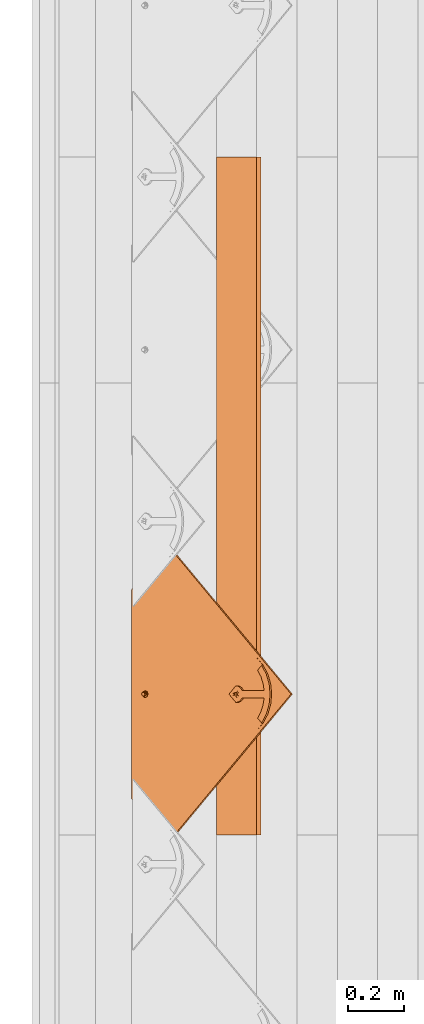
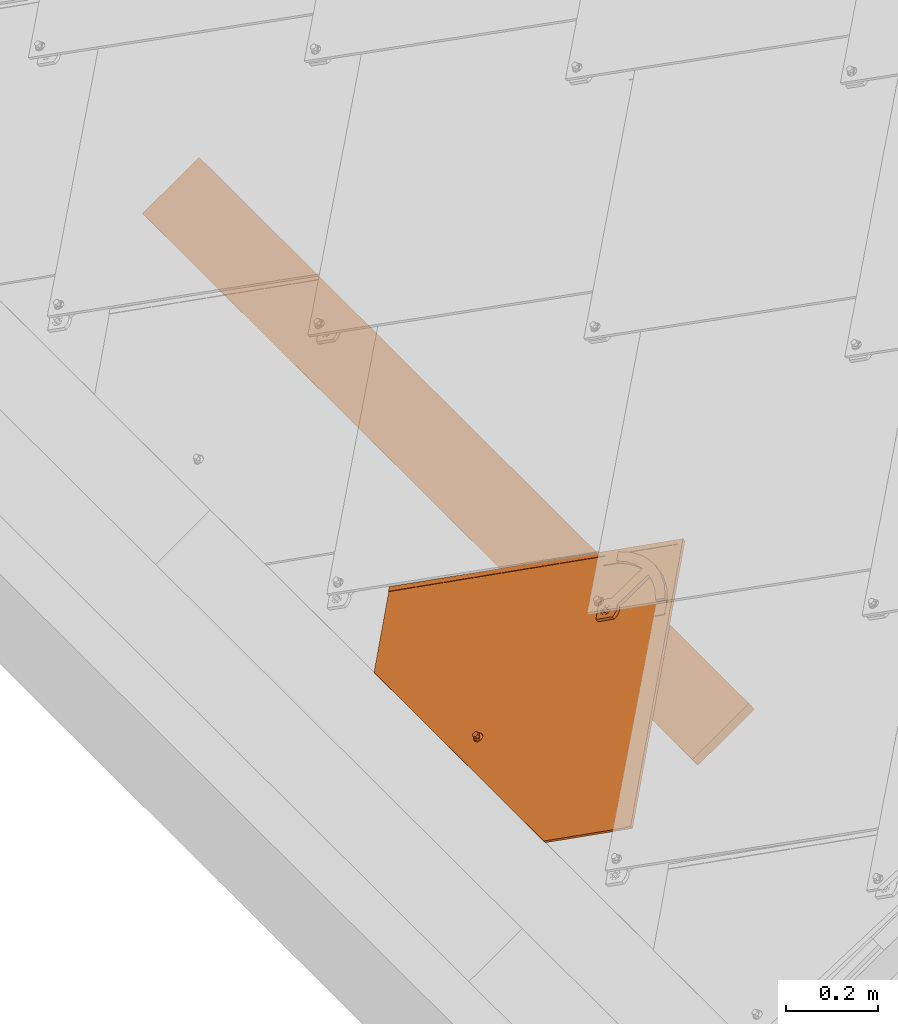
# One storey, part 24 of 133: 2 proxies, 1 element without a shape of its own.
"""IFC2X3 building model written with IfcOpenShell, lengths in millimetres."""

from ifc_helpers import new_model, entity, si_unit, converted_unit, derived_unit, direction, frame, frame_2d, origin, place, context, subcontext, project, spatial, rectangle, extrude, faceted_brep, source, transform, mapped, material, material_list, type_object, type_shapes, element, aggregate, save


model = new_model("IFC2X3")

# Units and contexts
model_context = context("Model", 3, precision=0.01, world=origin(), true_north=direction((6.12303176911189e-17, 1.0)))
body_context = subcontext(model_context, "Body", "Model", "MODEL_VIEW")
ifc_project = project(units=[si_unit("LENGTHUNIT", "METRE", prefix="MILLI"), si_unit("AREAUNIT", "SQUARE_METRE"), si_unit("VOLUMEUNIT", "CUBIC_METRE"), converted_unit("PLANEANGLEUNIT", "DEGREE", entity("IfcRatioMeasure", 0.0174532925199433), si_unit("PLANEANGLEUNIT", "RADIAN"), dimensions=[0, 0, 0, 0, 0, 0, 0]), si_unit("MASSUNIT", "GRAM", prefix="KILO"), derived_unit("MASSDENSITYUNIT", [(si_unit("MASSUNIT", "GRAM", prefix="KILO"), 1), (si_unit("LENGTHUNIT", "METRE"), -3)]), si_unit("TIMEUNIT", "SECOND"), si_unit("FREQUENCYUNIT", "HERTZ"), si_unit("THERMODYNAMICTEMPERATUREUNIT", "DEGREE_CELSIUS"), derived_unit("THERMALTRANSMITTANCEUNIT", [(si_unit("MASSUNIT", "GRAM", prefix="KILO"), 1), (si_unit("THERMODYNAMICTEMPERATUREUNIT", "KELVIN"), -1), (si_unit("TIMEUNIT", "SECOND"), -3)]), derived_unit("VOLUMETRICFLOWRATEUNIT", [(si_unit("LENGTHUNIT", "METRE"), 3), (si_unit("TIMEUNIT", "SECOND"), -1)]), si_unit("ELECTRICCURRENTUNIT", "AMPERE"), si_unit("ELECTRICVOLTAGEUNIT", "VOLT"), si_unit("POWERUNIT", "WATT"), si_unit("FORCEUNIT", "NEWTON", prefix="KILO"), si_unit("ILLUMINANCEUNIT", "LUX"), si_unit("LUMINOUSFLUXUNIT", "LUMEN"), si_unit("LUMINOUSINTENSITYUNIT", "CANDELA"), derived_unit("USERDEFINED", [(si_unit("MASSUNIT", "GRAM", prefix="KILO"), -1), (si_unit("LENGTHUNIT", "METRE"), -2), (si_unit("TIMEUNIT", "SECOND"), 3), (si_unit("LUMINOUSFLUXUNIT", "LUMEN"), 1)]), derived_unit("LINEARVELOCITYUNIT", [(si_unit("LENGTHUNIT", "METRE"), 1), (si_unit("TIMEUNIT", "SECOND"), -1)]), si_unit("PRESSUREUNIT", "PASCAL"), derived_unit("USERDEFINED", [(si_unit("LENGTHUNIT", "METRE"), -2), (si_unit("MASSUNIT", "GRAM", prefix="KILO"), 1), (si_unit("TIMEUNIT", "SECOND"), -2)])], contexts=[model_context])

# Site, building, storey
site_placement = place(None, origin())
site = spatial("IfcSite", under=ifc_project, at=site_placement, Name="Default", CompositionType="ELEMENT")
building_placement = place(site_placement, origin())
building = spatial("IfcBuilding", under=site, at=building_placement, CompositionType="ELEMENT")
storey_placement = place(building_placement, origin())
storey = spatial("IfcBuildingStorey", under=building, at=storey_placement, Name="Level 1", CompositionType="ELEMENT", Elevation=0.0)

# Assembly, proxy
assembly_placement = place(storey_placement, origin())
assembly = element("IfcElementAssembly", 1, at=assembly_placement, inside=storey, Name="Structural Framing Assembly:Roof Construction Assembly", ObjectType="Structural Framing Assembly:Roof Construction Assembly", AssemblyPlace="NOTDEFINED", PredefinedType="USERDEFINED")
ifc_material_1 = material(Name="Wood - Generic - Wood For Showcase")
building_element_proxy_type_1 = type_object("IfcBuildingElementProxyType", Name="Structural Framing 15", PredefinedType="NOTDEFINED", material=ifc_material_1)
shared_shape_1 = source(origin(), body_context, "Body", "SweptSolid", [
    extrude(rectangle(XDim=24.9999999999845, YDim=174.344679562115, at=frame_2d((-1.77635683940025e-13, -4.54747350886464e-13), x_axis=(0.0, 1.0))), frame((1128.20180147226, 1525.55080214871, 2760.23940055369), z_axis=(0.0, 1.0, 0.0), x_axis=(-0.819152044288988, 0.0, -0.573576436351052)), (0.0, 0.0, 1.0), 2400.0),
])
type_shapes(building_element_proxy_type_1, [shared_shape_1])
proxy_1_placement = place(assembly_placement, frame((-3141.92561483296, -4870.0, -2200.0)))
proxy_1 = element("IfcBuildingElementProxy", 2, at=proxy_1_placement, type_object=building_element_proxy_type_1, material=ifc_material_1, Name="Structural Framing 127:Structural Framing 15", ObjectType="Structural Framing 127:Structural Framing 15", context=body_context, shape_type="MappedRepresentation", body=[
    mapped(shared_shape_1, transform((0.0, 0.0, 0.0), scale=1.0)),
])
aggregate(assembly, [proxy_1])

# Proxy
ifc_material_2 = material(Name="Rubber - Sunstyle - Black")
ifc_material_3 = material(Name="Glass - Sunstyle - Tainted Black")
ifc_material_list_1 = material_list([ifc_material_2, ifc_material_3])
ifc_material_list_2 = material_list([ifc_material_2, ifc_material_3])
building_element_proxy_type_2 = type_object("IfcBuildingElementProxyType", Name="Shingle Bottom - Black", PredefinedType="NOTDEFINED", material=ifc_material_list_2)
shared_shape_2 = source(origin(), body_context, "Body", "Brep", [
    faceted_brep([(0.0, -1.79273515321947, -4.01619789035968), (-5.7742028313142, -5.12600528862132, -3.96037390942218), (-5.77420283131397, -4.75769619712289, 18.0314954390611), (0.0, -1.42442606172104, 17.9756714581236), (-5.77420283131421, -11.792545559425, -3.84872594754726), (-5.77420283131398, -11.4242364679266, 18.143143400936), (0.0, -15.1258156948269, -3.79290196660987), (0.0, -14.7575066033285, 18.1989673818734), (5.77420283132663, -11.7925455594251, -3.84872594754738), (5.77420283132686, -11.4242364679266, 18.1431434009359), (5.77420283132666, -5.12600528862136, -3.96037390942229), (5.77420283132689, -4.75769619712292, 18.031495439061), (-8.60370416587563, -16.6934641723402, 18.2313898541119), (0.0, -20.2567354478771, 18.2910657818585), (-12.1674751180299, -8.09096633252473, 18.0873194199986), (-8.60370416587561, 0.511531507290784, 17.9432489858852), (0.0, 4.07480278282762, 17.8835730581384), (8.60370416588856, 0.511531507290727, 17.9432489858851), (12.1674751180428, -8.09096633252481, 18.0873194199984), (8.60370416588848, -16.6934641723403, 18.2313898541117), (-11.4302228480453, -6.71737066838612, 20.4858706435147), (-9.77051349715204, -8.02009729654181, 22.3189355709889), (0.0, -0.706876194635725, 22.9603444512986), (0.0, 0.533621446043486, 22.3799978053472), (0.0, 2.69117229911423, 21.3706227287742), (-6.32324569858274, -4.35709193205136, 23.021476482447), (-6.32324569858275, -11.6575234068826, 23.1437405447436), (0.0, -18.7571148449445, 21.7298281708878), (0.0, -15.3077391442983, 23.2048725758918), (10.9851748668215, -11.808022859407, 20.3827540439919), (10.123850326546, -8.02413622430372, 22.0777687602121), (6.32324569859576, -4.3570919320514, 23.0214764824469), (6.32324569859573, -11.6575234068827, 23.1437405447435), (-6.32324569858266, -11.5234949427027, 31.146628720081), (0.0, -15.1737106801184, 31.2077607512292), (0.0, -7.8732792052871, 31.0854966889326), (-6.32324569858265, -4.22306346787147, 31.0243646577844), (6.32324569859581, -11.5234949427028, 31.1466287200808), (6.32324569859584, -4.22306346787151, 31.0243646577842), (0.0, -0.57284773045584, 30.963232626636), (0.0, -8.45927542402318, -3.90454992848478)], [[[0, 1, 2, 3]], [[1, 4, 5, 2]], [[4, 6, 7, 5]], [[6, 8, 9, 7]], [[8, 10, 11, 9]], [[10, 0, 3, 11]], [[12, 7, 13]], [[7, 12, 5]], [[14, 5, 12]], [[5, 14, 2]], [[15, 2, 14]], [[3, 2, 15]], [[15, 16, 3]], [[16, 17, 3]], [[11, 3, 17]], [[11, 17, 18]], [[9, 11, 18]], [[18, 19, 9]], [[7, 9, 19]], [[19, 13, 7]], [[15, 20, 16]], [[21, 22, 23, 24]], [[22, 21, 25]], [[20, 14, 12]], [[15, 14, 20]], [[25, 21, 26]], [[20, 24, 16]], [[12, 13, 27]], [[12, 27, 20]], [[21, 28, 26]], [[21, 27, 28]], [[20, 21, 24]], [[20, 27, 21]], [[19, 29, 13]], [[30, 23, 31]], [[30, 28, 27]], [[24, 23, 30]], [[29, 27, 13]], [[19, 18, 29]], [[29, 30, 27]], [[29, 17, 24]], [[24, 17, 16]], [[31, 32, 30]], [[23, 22, 31]], [[28, 30, 32]], [[29, 24, 30]], [[29, 18, 17]], [[33, 34, 35]], [[35, 36, 33]], [[34, 37, 35]], [[38, 35, 37]], [[35, 38, 39]], [[35, 39, 36]], [[40, 6, 4]], [[4, 1, 40]], [[1, 0, 40]], [[40, 8, 6]], [[0, 10, 40]], [[8, 40, 10]], [[22, 25, 36, 39]], [[25, 26, 33, 36]], [[26, 28, 34, 33]], [[28, 32, 37, 34]], [[32, 31, 38, 37]], [[31, 22, 39, 38]]]),
    faceted_brep([(0.0, 372.824876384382, 20.3195200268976), (0.0, 377.324245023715, 20.2441667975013), (-8.60370416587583, 376.388147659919, 20.2598440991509), (8.60370416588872, 376.388147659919, 20.2598440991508), (6.64022859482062, 381.157445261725, 20.1799702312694), (12.1674751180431, 384.990645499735, 20.1157736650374), (6.64022859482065, 388.823845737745, 20.0515770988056), (8.6037041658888, 393.59314333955, 19.9717032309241), (0.0, 392.657045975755, 19.9873805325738), (0.0, 397.156414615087, 19.9120273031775), (-8.60370416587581, 393.59314333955, 19.9717032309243), (-6.64022859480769, 388.823845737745, 20.0515770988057), (-12.1674751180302, 384.990645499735, 20.1157736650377), (-6.6402285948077, 381.157445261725, 20.1799702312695), (-6.6402282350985, 388.555922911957, 4.05382046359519), (0.0, 392.389122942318, 3.98962390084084), (-6.64022823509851, 380.889522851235, 4.18221358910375), (0.0, 377.056322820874, 4.24641015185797), (6.64022823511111, 380.889522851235, 4.18221358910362), (6.64022823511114, 388.555922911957, 4.05382046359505), (-8.603704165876, 376.12022504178, 4.26208746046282), (0.0, 372.556953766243, 4.32176338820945), (-12.1674751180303, 384.722722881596, 4.11801702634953), (-8.60370416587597, 393.325220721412, 3.97394659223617), (0.0, 396.888491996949, 3.91427066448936), (8.60370416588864, 393.325220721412, 3.97394659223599), (12.1674751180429, 384.722722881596, 4.11801702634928), (8.60370416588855, 376.12022504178, 4.26208746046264)], [[[0, 1, 2]], [[1, 0, 3]], [[3, 4, 1]], [[4, 3, 5]], [[6, 4, 5]], [[5, 7, 6]], [[7, 8, 6]], [[8, 7, 9]], [[8, 9, 10]], [[10, 11, 8]], [[12, 11, 10]], [[2, 13, 12]], [[12, 13, 11]], [[13, 2, 1]], [[8, 11, 14, 15]], [[11, 13, 16, 14]], [[13, 1, 17, 16]], [[1, 4, 18, 17]], [[4, 6, 19, 18]], [[6, 8, 15, 19]], [[20, 17, 21]], [[17, 20, 16]], [[22, 16, 20]], [[14, 16, 22]], [[23, 14, 22]], [[15, 14, 23]], [[23, 24, 15]], [[24, 25, 15]], [[19, 15, 25]], [[19, 25, 26]], [[26, 18, 19]], [[26, 27, 18]], [[17, 18, 27]], [[27, 21, 17]], [[24, 23, 10, 9]], [[10, 23, 22, 12]], [[20, 21, 0, 2]], [[20, 2, 12, 22]], [[21, 27, 3, 0]], [[3, 27, 26, 5]], [[25, 24, 9, 7]], [[25, 7, 5, 26]]]),
    faceted_brep([(518.247351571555, 79.9143812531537, 14.965257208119), (526.732038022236, 88.3990677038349, 14.8231598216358), (526.732038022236, 88.4241854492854, 16.3229495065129), (518.247351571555, 79.9394989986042, 16.4650468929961), (0.000322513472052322, 598.016093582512, 6.28834266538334), (-518.246706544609, 79.9143812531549, 14.9652572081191), (-526.73139299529, 88.3990677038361, 14.8231598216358), (0.000322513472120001, 614.983087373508, 6.00418773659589), (0.000322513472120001, 615.008205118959, 7.50397742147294), (-526.731392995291, 88.4241854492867, 16.3229495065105), (-518.246706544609, 79.9394989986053, 16.465046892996), (0.000322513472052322, 598.041211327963, 7.78813235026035)], [[[0, 1, 2, 3]], [[1, 0, 4, 5, 6, 7]], [[2, 1, 7, 8]], [[3, 2, 8, 9, 10, 11]], [[0, 3, 11, 4]], [[5, 10, 9, 6]], [[8, 7, 6, 9]], [[4, 11, 10, 5]]]),
    faceted_brep([(0.00032251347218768, 614.983087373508, 6.00418773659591), (-2.87802047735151, 396.187349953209, 9.66847193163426), (0.227808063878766, 396.596182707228, 9.6616250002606), (-5.77219193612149, 394.988712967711, 9.68854611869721), (3.3336366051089, 396.187349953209, 9.66847193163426), (6.22780806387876, 394.988712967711, 9.6885461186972), (8.71308943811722, 393.081956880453, 9.72047953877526), (10.620112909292, 390.59702396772, 9.76209598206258), (-8.25747331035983, 393.081956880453, 9.72047953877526), (-10.1644967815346, 390.59702396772, 9.76209598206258), (-11.3633018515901, 387.703258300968, 9.81055935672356), (-526.731392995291, 88.3990677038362, 14.8231598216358), (11.8189179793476, 387.703258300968, 9.81055935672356), (526.732038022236, 88.3990677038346, 14.8231598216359), (-11.7721919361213, 384.597865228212, 9.86256696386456), (-11.3633018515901, 381.492472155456, 9.91457457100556), (-10.1644967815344, 378.598706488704, 9.96303794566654), (-370.355016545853, -67.9334607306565, 17.4413406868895), (-8.25747331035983, 376.113773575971, 10.0046543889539), (-5.65685424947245, -2.29422365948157, 16.3420467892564), (-6.92820323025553, -3.95084560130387, 16.3697910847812), (-7.72740661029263, -5.88002271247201, 16.4021000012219), (-8.0, -7.95028476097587, 16.4367717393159), (-7.72740661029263, -10.0205468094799, 16.4714434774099), (-6.9282032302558, -11.9497239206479, 16.5037523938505), (-5.65685424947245, -13.6063458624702, 16.5314966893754), (-4.0, -14.8775165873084, 16.5527856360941), (-2.07055236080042, -15.676607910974, 16.5661684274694), (0.0, -15.9491630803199, 16.5707330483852), (370.355661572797, -67.9334607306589, 17.4413406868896), (10.620112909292, 378.598706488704, 9.96303794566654), (8.71308943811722, 376.11377357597, 10.0046543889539), (5.65685424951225, -2.29422365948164, 16.3420467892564), (6.92820323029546, -3.9508456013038, 16.3697910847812), (7.72740661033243, -5.88002271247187, 16.4021000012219), (8.0, -7.9502847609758, 16.4367717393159), (7.72740661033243, -10.0205468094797, 16.4714434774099), (6.92820323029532, -11.9497239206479, 16.5037523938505), (5.65685424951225, -13.6063458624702, 16.5314966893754), (4.0, -14.8775165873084, 16.5527856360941), (2.07055236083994, -15.676607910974, 16.5661684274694), (-5.77219193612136, 374.207017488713, 10.0365878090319), (-4.0, -1.02305293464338, 16.3207578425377), (-2.87802047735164, 373.008380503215, 10.0566619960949), (-2.07055236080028, -0.223961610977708, 16.3073750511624), (0.227808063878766, 372.599547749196, 10.0635089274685), (0.0, 0.0485935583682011, 16.3028104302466), (2.07055236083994, -0.223961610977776, 16.3073750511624), (3.3336366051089, 373.008380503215, 10.0566619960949), (4.0, -1.02305293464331, 16.3207578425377), (6.22780806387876, 374.207017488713, 10.0365878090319), (12.2278080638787, 384.597865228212, 9.86256696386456), (11.8189179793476, 381.492472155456, 9.91457457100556), (-370.355016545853, -68.059049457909, 9.94239226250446), (-6.92820323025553, -4.07643432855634, 8.87084266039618), (-7.72740661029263, -6.00561143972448, 8.90315157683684), (-8.0, -8.07587348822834, 8.93782331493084), (-7.72740661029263, -10.1461355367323, 8.97249505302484), (-6.9282032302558, -12.0753126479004, 9.00480396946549), (-5.65685424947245, -13.7319345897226, 9.03254826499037), (-5.65685424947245, -2.41981238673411, 8.8430983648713), (-8.25747331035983, 375.988184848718, 2.50570596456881), (-4.0, -15.0031053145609, 9.05383721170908), (-2.07055236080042, -15.8021966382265, 9.06722000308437), (0.0, -16.0747518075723, 9.07178462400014), (370.355661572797, -68.0590494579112, 9.9423922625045), (-10.1644967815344, 378.473117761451, 2.46408952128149), (-526.731392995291, 88.2734789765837, 7.32421139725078), (-11.3633018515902, 381.366883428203, 2.41562614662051), (-11.7721919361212, 384.472276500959, 2.36361853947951), (-11.3633018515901, 387.577669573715, 2.3116109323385), (0.00032251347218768, 614.857498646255, -1.49476068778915), (-10.1644967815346, 390.471435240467, 2.26314755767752), (-8.25747331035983, 392.956368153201, 2.22153111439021), (-5.77219193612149, 394.863124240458, 2.18959769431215), (-2.87802047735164, 396.061761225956, 2.16952350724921), (0.227808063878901, 396.470593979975, 2.16267657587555), (3.3336366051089, 396.061761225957, 2.1695235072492), (6.22780806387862, 394.863124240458, 2.18959769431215), (8.71308943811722, 392.956368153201, 2.2215311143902), (10.620112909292, 390.471435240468, 2.26314755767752), (11.8189179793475, 387.577669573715, 2.31161093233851), (526.732038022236, 88.2734789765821, 7.32421139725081), (12.2278080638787, 384.472276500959, 2.3636185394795), (10.620112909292, 378.473117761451, 2.46408952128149), (11.8189179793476, 381.366883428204, 2.41562614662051), (-5.77219193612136, 374.08142876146, 2.53763938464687), (-4.0, -1.14864166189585, 8.8218094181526), (-2.87802047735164, 372.882791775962, 2.55771357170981), (-2.07055236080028, -0.349550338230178, 8.8084266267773), (0.227808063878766, 372.473959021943, 2.56456050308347), (0.0, -0.0769951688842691, 8.80386200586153), (2.07055236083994, -0.349550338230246, 8.8084266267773), (3.3336366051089, 372.882791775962, 2.55771357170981), (4.0, -1.14864166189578, 8.8218094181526), (6.22780806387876, 374.081428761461, 2.53763938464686), (5.65685424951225, -2.41981238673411, 8.8430983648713), (8.71308943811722, 375.988184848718, 2.50570596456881), (6.92820323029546, -4.07643432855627, 8.87084266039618), (7.72740661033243, -6.00561143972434, 8.90315157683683), (8.0, -8.07587348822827, 8.93782331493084), (7.72740661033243, -10.1461355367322, 8.97249505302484), (6.92820323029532, -12.0753126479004, 9.00480396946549), (5.65685424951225, -13.7319345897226, 9.03254826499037), (4.0, -15.0031053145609, 9.05383721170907), (2.07055236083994, -15.8021966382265, 9.06722000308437)], [[[0, 1, 2]], [[1, 0, 3]], [[0, 2, 4]], [[4, 5, 0]], [[5, 6, 0]], [[0, 6, 7]], [[8, 3, 0]], [[9, 8, 0]], [[9, 0, 10]], [[10, 0, 11]], [[12, 0, 7]], [[12, 13, 0]], [[11, 14, 10]], [[14, 11, 15]], [[16, 15, 11]], [[11, 17, 16]], [[16, 17, 18]], [[19, 18, 17]], [[19, 17, 20]], [[20, 17, 21]], [[22, 21, 17]], [[22, 17, 23]], [[24, 23, 17]], [[17, 25, 24]], [[26, 25, 17]], [[27, 26, 17]], [[17, 28, 27]], [[28, 17, 29]], [[29, 13, 30]], [[29, 30, 31]], [[29, 31, 32]], [[32, 33, 29]], [[33, 34, 29]], [[35, 29, 34]], [[29, 35, 36]], [[36, 37, 29]], [[29, 37, 38]], [[38, 39, 29]], [[40, 28, 29]], [[39, 40, 29]], [[41, 18, 19]], [[42, 41, 19]], [[42, 43, 41]], [[44, 43, 42]], [[44, 45, 43]], [[46, 45, 44]], [[47, 45, 46]], [[48, 45, 47]], [[49, 48, 47]], [[49, 50, 48]], [[32, 50, 49]], [[32, 31, 50]], [[12, 51, 13]], [[52, 13, 51]], [[13, 52, 30]], [[53, 54, 55]], [[53, 55, 56]], [[56, 57, 53]], [[57, 58, 53]], [[53, 58, 59]], [[60, 54, 53]], [[61, 60, 53]], [[59, 62, 53]], [[62, 63, 53]], [[63, 64, 53]], [[53, 64, 65]], [[66, 61, 53]], [[66, 53, 67]], [[68, 66, 67]], [[69, 68, 67]], [[69, 67, 70]], [[67, 71, 70]], [[72, 70, 71]], [[73, 72, 71]], [[71, 74, 73]], [[74, 71, 75]], [[75, 71, 76]], [[77, 76, 71]], [[77, 71, 78]], [[79, 78, 71]], [[71, 80, 79]], [[80, 71, 81]], [[71, 82, 81]], [[83, 81, 82]], [[84, 82, 65]], [[85, 82, 84]], [[82, 85, 83]], [[86, 60, 61]], [[86, 87, 60]], [[88, 87, 86]], [[89, 87, 88]], [[90, 89, 88]], [[90, 91, 89]], [[92, 91, 90]], [[92, 90, 93]], [[94, 92, 93]], [[93, 95, 94]], [[94, 95, 96]], [[97, 96, 95]], [[96, 97, 65]], [[84, 65, 97]], [[98, 96, 65]], [[99, 98, 65]], [[99, 65, 100]], [[101, 100, 65]], [[102, 101, 65]], [[103, 102, 65]], [[104, 103, 65]], [[105, 104, 65]], [[65, 64, 105]], [[11, 0, 71, 67]], [[17, 11, 67, 53]], [[13, 29, 65, 82]], [[0, 13, 82, 71]], [[22, 56, 55, 21]], [[21, 55, 54, 20]], [[42, 19, 60, 87]], [[60, 19, 20, 54]], [[44, 42, 87, 89]], [[44, 89, 91, 46]], [[46, 91, 92, 47]], [[47, 92, 94, 49]], [[33, 32, 96, 98]], [[96, 32, 49, 94]], [[34, 33, 98, 99]], [[34, 99, 100, 35]], [[35, 100, 101, 36]], [[36, 101, 102, 37]], [[39, 38, 103, 104]], [[103, 38, 37, 102]], [[40, 39, 104, 105]], [[40, 105, 64, 28]], [[28, 64, 63, 27]], [[27, 63, 62, 26]], [[24, 25, 59, 58]], [[59, 25, 26, 62]], [[23, 24, 58, 57]], [[23, 57, 56, 22]], [[14, 69, 70, 10]], [[10, 70, 72, 9]], [[3, 8, 73, 74]], [[73, 8, 9, 72]], [[1, 3, 74, 75]], [[1, 75, 76, 2]], [[2, 76, 77, 4]], [[4, 77, 78, 5]], [[7, 6, 79, 80]], [[79, 6, 5, 78]], [[12, 7, 80, 81]], [[12, 81, 83, 51]], [[51, 83, 85, 52]], [[52, 85, 84, 30]], [[50, 31, 97, 95]], [[97, 31, 30, 84]], [[48, 50, 95, 93]], [[48, 93, 90, 45]], [[45, 90, 88, 43]], [[43, 88, 86, 41]], [[16, 18, 61, 66]], [[41, 86, 61, 18]], [[68, 15, 16, 66]], [[15, 68, 69, 14]], [[29, 17, 53, 65]]]),
    faceted_brep([(-111.269043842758, 451.472531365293, 11.2429332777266), (-84.9443960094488, 477.793488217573, 10.8021227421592), (-102.027571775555, 494.874268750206, 10.5160621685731), (-108.279973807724, 489.512620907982, 10.6058564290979), (-114.2509690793, 483.839345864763, 10.7008696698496), (-128.946713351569, 469.147722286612, 10.9469178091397), (128.946713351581, 469.147722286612, 10.9469178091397), (114.250969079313, 483.839345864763, 10.7008696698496), (108.279973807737, 489.512620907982, 10.6058564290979), (102.027571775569, 494.874268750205, 10.5160621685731), (84.9431983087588, 477.794685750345, 10.802102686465), (111.269043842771, 451.472531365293, 11.2429332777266), (-8.48528137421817, 393.302959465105, 19.7181805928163), (-18.7041061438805, 407.484939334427, 19.4806677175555), (-23.2046504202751, 402.851933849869, 19.5582590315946), (-10.3923048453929, 390.818026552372, 19.7597970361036), (-6.0, 395.209715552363, 19.6862471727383), (-13.2999999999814, 411.02298750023, 19.4214142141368), (-3.10582854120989, 396.408352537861, 19.6661729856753), (0.0, 396.81718529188, 19.6593260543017), (13.3000000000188, 411.022987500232, 19.4214142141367), (3.10582854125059, 396.408352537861, 19.6661729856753), (6.0, 395.209715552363, 19.6862471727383), (18.7041061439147, 407.484939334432, 19.4806677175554), (8.48528137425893, 393.302959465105, 19.7181805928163), (23.2046504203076, 402.85193384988, 19.5582590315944), (10.3923048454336, 390.818026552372, 19.7597970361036), (26.5842195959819, 397.347783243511, 19.6504398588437), (11.5911099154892, 387.92426088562, 19.8082604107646), (28.6795527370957, 391.238383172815, 19.752757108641), (12.0, 384.818867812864, 19.8602680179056), (29.3894280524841, 384.818867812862, 19.8602680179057), (11.5911099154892, 381.713474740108, 19.9122756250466), (10.3923048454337, 378.819709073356, 19.9607389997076), (8.48528137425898, 376.334776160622, 20.0023554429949), (0.0, 355.433560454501, 20.3523987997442), (6.0, 374.428020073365, 20.034288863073), (3.10582854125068, 373.229383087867, 20.0543630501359), (0.0, 372.820550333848, 20.0612099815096), (-3.10582854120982, 373.229383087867, 20.0543630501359), (-6.0, 374.428020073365, 20.034288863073), (-8.48528137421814, 376.334776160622, 20.0023554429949), (-29.3894280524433, 384.818867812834, 19.8602680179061), (-10.3923048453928, 378.819709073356, 19.9607389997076), (-11.5911099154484, 381.713474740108, 19.9122756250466), (-12.0, 384.818867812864, 19.8602680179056), (-28.67955273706, 391.238383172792, 19.7527571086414), (-11.5911099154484, 387.92426088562, 19.8082604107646), (-26.5842195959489, 397.347783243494, 19.650439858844), (-13.2999999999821, 505.810987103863, 17.833951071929), (13.3000000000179, 505.810987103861, 17.833951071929), (0.0, 531.282600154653, 17.4073649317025), (36.4908407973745, 527.108634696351, 17.4772684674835), (38.7697427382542, 500.996106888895, 17.9145883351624), (71.096085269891, 514.802420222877, 17.6833669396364), (62.9243331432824, 491.592473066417, 18.0720758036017), (102.027571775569, 494.999857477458, 18.0150105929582), (84.9443960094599, 477.919076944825, 18.3010711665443), (-36.4908407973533, 527.108634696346, 17.4772684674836), (-38.7697427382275, 500.996106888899, 17.9145883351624), (-71.0960852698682, 514.802420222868, 17.6833669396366), (-62.9243331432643, 491.592473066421, 18.0720758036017), (-102.027571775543, 494.999857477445, 18.0150105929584), (-84.9443960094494, 477.919076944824, 18.3010711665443), (0.0, 355.266108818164, 10.3538009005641), (0.0, 372.653098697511, 10.0626120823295), (3.10582854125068, 373.06193145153, 10.0557651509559), (-3.10582854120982, 373.06193145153, 10.0557651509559), (6.0, 374.260568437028, 10.0356909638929), (8.48528137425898, 376.167324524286, 10.0037575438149), (29.3894280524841, 384.651416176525, 9.86167011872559), (-6.0, 374.260568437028, 10.0356909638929), (-8.48528137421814, 376.167324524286, 10.0037575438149), (-29.3894280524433, 384.651416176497, 9.86167011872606), (-10.3923048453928, 378.652257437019, 9.96214110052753), (-11.5911099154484, 381.546023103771, 9.91367772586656), (-12.0, 384.651416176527, 9.86167011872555), (-28.67955273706, 391.070931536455, 9.75415920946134), (-11.5911099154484, 387.756809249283, 9.80966251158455), (-26.5842195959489, 397.180331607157, 9.65184195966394), (-10.3923048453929, 390.650574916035, 9.76119913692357), (-23.2046504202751, 402.684482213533, 9.5596611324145), (-8.48528137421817, 393.135507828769, 9.71958269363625), (-18.7041061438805, 407.31748769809, 9.48206981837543), (-6.0, 395.042263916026, 9.6876492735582), (-13.2999999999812, 410.855535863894, 9.4228163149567), (-3.10582854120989, 396.240900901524, 9.66757508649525), (0.0, 396.649733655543, 9.66072815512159), (13.3000000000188, 410.855535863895, 9.42281631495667), (-13.2999999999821, 505.643535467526, 7.83535317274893), (13.3000000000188, 505.643535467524, 7.83535317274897), (0.0, 531.115148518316, 7.4087670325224), (-36.4908407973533, 526.94118306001, 7.47867056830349), (-38.7697427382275, 500.828655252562, 7.91599043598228), (-71.0960852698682, 514.634968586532, 7.68476904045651), (-62.9243331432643, 491.425021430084, 8.07347790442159), (-102.027571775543, 494.832405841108, 8.01641269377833), (-84.9431983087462, 477.752822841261, 8.30245321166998), (-108.279973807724, 489.470757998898, 8.10620695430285), (-114.2509690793, 483.79748295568, 8.2012201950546), (-111.269043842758, 451.430668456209, 8.74328380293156), (-128.946713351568, 469.105859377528, 8.44726833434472), (36.4908407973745, 526.941183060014, 7.47867056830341), (38.7697427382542, 500.828655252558, 7.91599043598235), (71.096085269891, 514.634968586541, 7.68476904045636), (62.9243331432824, 491.425021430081, 8.07347790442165), (102.027571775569, 494.832405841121, 8.01641269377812), (84.9443960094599, 477.751625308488, 8.30247326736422), (108.279973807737, 489.470757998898, 8.10620695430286), (114.250969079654, 483.797482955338, 8.20122019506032), (111.269043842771, 451.430668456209, 8.74328380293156), (128.946713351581, 469.105859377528, 8.44726833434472), (3.10582854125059, 396.240900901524, 9.66757508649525), (6.0, 395.042263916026, 9.6876492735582), (18.7041061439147, 407.317487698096, 9.48206981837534), (8.48528137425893, 393.135507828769, 9.71958269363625), (23.2046504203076, 402.684482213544, 9.55966113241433), (10.3923048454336, 390.650574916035, 9.76119913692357), (26.5842195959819, 397.180331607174, 9.65184195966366), (11.5911099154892, 387.756809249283, 9.80966251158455), (28.6795527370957, 391.070931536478, 9.75415920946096), (12.0, 384.651416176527, 9.86167011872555), (11.5911099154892, 381.546023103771, 9.91367772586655), (10.3923048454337, 378.652257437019, 9.96214110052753)], [[[0, 1, 2, 3, 4, 5]], [[6, 7, 8, 9, 10, 11]], [[12, 13, 14]], [[15, 12, 14]], [[16, 13, 12]], [[13, 16, 17]], [[17, 16, 18]], [[18, 19, 17]], [[20, 17, 19]], [[19, 21, 20]], [[22, 20, 21]], [[22, 23, 20]], [[22, 24, 23]], [[25, 23, 24]], [[26, 25, 24]], [[25, 26, 27]], [[26, 28, 27]], [[29, 27, 28]], [[28, 30, 29]], [[31, 29, 30]], [[30, 32, 31]], [[32, 33, 31]], [[31, 33, 34]], [[34, 35, 31]], [[34, 36, 35]], [[37, 35, 36]], [[38, 35, 37]], [[35, 38, 39]], [[40, 35, 39]], [[40, 41, 35]], [[42, 35, 41]], [[43, 42, 41]], [[43, 44, 42]], [[44, 45, 42]], [[45, 46, 42]], [[46, 45, 47]], [[48, 46, 47]], [[47, 15, 48]], [[48, 15, 14]], [[20, 49, 17]], [[49, 20, 50]], [[51, 49, 50]], [[50, 52, 51]], [[53, 52, 50]], [[52, 53, 54]], [[55, 54, 53]], [[54, 55, 56]], [[55, 57, 56]], [[58, 49, 51]], [[49, 58, 59]], [[60, 59, 58]], [[60, 61, 59]], [[61, 60, 62]], [[61, 62, 63]], [[64, 65, 66]], [[65, 64, 67]], [[64, 66, 68]], [[68, 69, 64]], [[64, 69, 70]], [[71, 67, 64]], [[71, 64, 72]], [[72, 64, 73]], [[73, 74, 72]], [[74, 73, 75]], [[76, 75, 73]], [[77, 76, 73]], [[76, 77, 78]], [[78, 77, 79]], [[80, 78, 79]], [[81, 80, 79]], [[82, 80, 81]], [[81, 83, 82]], [[83, 84, 82]], [[84, 83, 85]], [[85, 86, 84]], [[87, 86, 85]], [[87, 85, 88]], [[88, 85, 89]], [[88, 89, 90]], [[89, 91, 90]], [[91, 89, 92]], [[93, 92, 89]], [[94, 92, 93]], [[93, 95, 94]], [[95, 96, 94]], [[97, 96, 95]], [[98, 96, 97]], [[99, 98, 97]], [[97, 100, 99]], [[101, 99, 100]], [[102, 90, 91]], [[90, 102, 103]], [[104, 103, 102]], [[103, 104, 105]], [[105, 104, 106]], [[107, 105, 106]], [[107, 106, 108]], [[109, 107, 108]], [[110, 107, 109]], [[111, 110, 109]], [[87, 88, 112]], [[113, 112, 88]], [[114, 113, 88]], [[115, 113, 114]], [[115, 114, 116]], [[116, 117, 115]], [[116, 118, 117]], [[117, 118, 119]], [[119, 118, 120]], [[121, 119, 120]], [[120, 70, 121]], [[122, 121, 70]], [[70, 69, 123]], [[123, 122, 70]], [[17, 49, 89, 85]], [[13, 17, 85, 83]], [[14, 13, 83, 81]], [[81, 79, 48, 14]], [[46, 48, 79, 77]], [[42, 46, 77, 73]], [[35, 42, 73, 64]], [[31, 35, 64, 70]], [[29, 31, 70, 120]], [[27, 29, 120, 118]], [[118, 116, 25, 27]], [[23, 25, 116, 114]], [[20, 23, 114, 88]], [[50, 20, 88, 90]], [[9, 106, 104, 54, 56]], [[52, 54, 104, 102]], [[51, 52, 102, 91]], [[58, 51, 91, 92]], [[94, 96, 2, 62, 60]], [[60, 58, 92, 94]], [[45, 76, 78, 47]], [[47, 78, 80, 15]], [[16, 12, 82, 84]], [[80, 82, 12, 15]], [[18, 16, 84, 86]], [[87, 19, 18, 86]], [[21, 112, 113, 22]], [[22, 113, 115, 24]], [[28, 26, 117, 119]], [[115, 117, 26, 24]], [[30, 28, 119, 121]], [[21, 19, 87, 112]], [[30, 121, 122, 32]], [[32, 122, 123, 33]], [[36, 34, 69, 68]], [[123, 69, 34, 33]], [[37, 36, 68, 66]], [[65, 38, 37, 66]], [[39, 67, 71, 40]], [[40, 71, 72, 41]], [[44, 43, 74, 75]], [[72, 74, 43, 41]], [[45, 44, 75, 76]], [[39, 38, 65, 67]], [[7, 6, 111, 109]], [[6, 11, 110, 111]], [[7, 109, 108, 8]], [[108, 106, 9, 8]], [[11, 10, 107, 110]], [[0, 5, 101, 100]], [[1, 0, 100, 97]], [[2, 96, 98, 3]], [[98, 99, 4, 3]], [[5, 4, 99, 101]], [[63, 62, 2, 1]], [[56, 57, 10]], [[10, 9, 56]], [[1, 95, 61, 63]], [[1, 97, 95]], [[93, 89, 49, 59]], [[95, 93, 59, 61]], [[90, 103, 53, 50]], [[103, 105, 55, 53]], [[10, 57, 55]], [[107, 10, 105]], [[55, 105, 10]]]),
])
type_shapes(building_element_proxy_type_2, [shared_shape_2])
proxy_2_placement = place(storey_placement, frame((-2327.24013143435, -2846.25556674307, 355.972593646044), z_axis=(-0.57357643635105, 0.0, 0.819152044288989), x_axis=(0.0, -1.0, 0.0)))
element("IfcBuildingElementProxy", 3, at=proxy_2_placement, inside=storey, type_object=building_element_proxy_type_2, material=ifc_material_list_1, Name="Roofing_Panels_SunStyle_Tile_Shingle-Bottom:Shingle Bottom - Black", ObjectType="Roofing_Panels_SunStyle_Tile_Shingle-Bottom:Shingle Bottom - Black", context=body_context, shape_type="MappedRepresentation", body=[
    mapped(shared_shape_2, transform((0.0, 0.0, 0.0), scale=1.0)),
])

save(model, "model.ifc")
